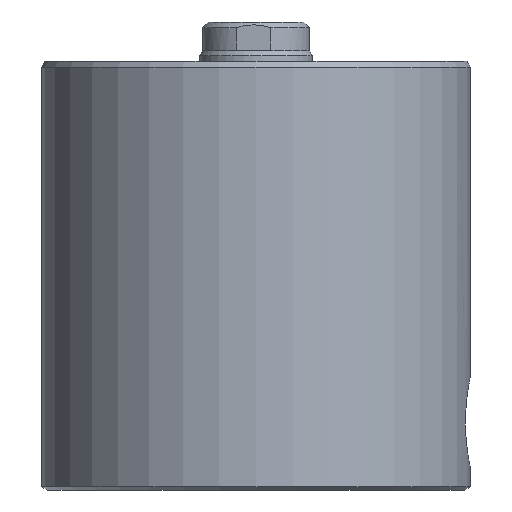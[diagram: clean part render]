
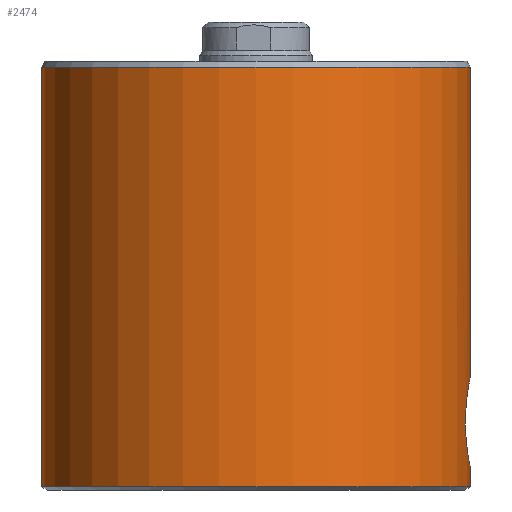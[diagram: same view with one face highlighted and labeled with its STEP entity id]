
A CAD part, front view. The second image highlights one B-rep face of the part: STEP entity #2474.
In plain terms, the highlighted cylindrical face has radius 38 mm (diameter 76 mm), a partial arc.
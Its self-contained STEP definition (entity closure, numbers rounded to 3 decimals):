
#9 = CARTESIAN_POINT ( 'NONE',  ( 37.295, -7.289, 8.692 ) ) ;
#30 = CARTESIAN_POINT ( 'NONE',  ( 37.79, -4.012, 5.059 ) ) ;
#31 = LINE ( 'NONE', #1203, #2185 ) ;
#65 = ORIENTED_EDGE ( 'NONE', *, *, #1409, .T. ) ;
#133 = CIRCLE ( 'NONE', #682, 38. ) ;
#236 = CARTESIAN_POINT ( 'NONE',  ( 37.713, -4.663, 5.495 ) ) ;
#256 = CARTESIAN_POINT ( 'NONE',  ( 37.913, -2.577, 4.422 ) ) ;
#278 = CARTESIAN_POINT ( 'NONE',  ( 37.604, -5.474, 6.161 ) ) ;
#293 = CARTESIAN_POINT ( 'NONE',  ( 37.388, -6.795, 7.77 ) ) ;
#294 = DIRECTION ( 'NONE',  ( 0., 0., -1. ) ) ;
#311 = CARTESIAN_POINT ( 'NONE',  ( 37.317, -7.176, 15.546 ) ) ;
#577 = EDGE_CURVE ( 'NONE', #2547, #1329, #3511, .T. ) ;
#580 = CARTESIAN_POINT ( 'NONE',  ( 38., 0., 4. ) ) ;
#591 = DIRECTION ( 'NONE',  ( 1., 0., 0. ) ) ;
#600 = CARTESIAN_POINT ( 'NONE',  ( 37.235, -7.591, 14.579 ) ) ;
#608 = EDGE_LOOP ( 'NONE', ( #745, #2962, #3556, #3316, #3281, #65 ) ) ;
#676 = CARTESIAN_POINT ( 'NONE',  ( 37.986, -1.049, 19.935 ) ) ;
#682 = AXIS2_PLACEMENT_3D ( 'NONE', #823, #294, #1702 ) ;
#745 = ORIENTED_EDGE ( 'NONE', *, *, #2618, .F. ) ;
#790 = VERTEX_POINT ( 'NONE', #3552 ) ;
#801 = DIRECTION ( 'NONE',  ( 0., 0., -1. ) ) ;
#817 = CARTESIAN_POINT ( 'NONE',  ( 0., 0., 0.577 ) ) ;
#822 = CARTESIAN_POINT ( 'NONE',  ( 37.989, -1.051, 4.052 ) ) ;
#823 = CARTESIAN_POINT ( 'NONE',  ( 0., 0., 75. ) ) ;
#839 = CARTESIAN_POINT ( 'NONE',  ( 38., -0.53, 4. ) ) ;
#886 = CARTESIAN_POINT ( 'NONE',  ( 37.16, -7.949, 10.953 ) ) ;
#925 = CARTESIAN_POINT ( 'NONE',  ( 37.688, -4.882, 18.359 ) ) ;
#1042 = CARTESIAN_POINT ( 'NONE',  ( 38., 0., 0.577 ) ) ;
#1069 = VECTOR ( 'NONE', #801, 1000. ) ;
#1122 = CARTESIAN_POINT ( 'NONE',  ( 37.549, -5.842, 17.472 ) ) ;
#1184 = CARTESIAN_POINT ( 'NONE',  ( 37.837, -3.553, 4.813 ) ) ;
#1202 = CARTESIAN_POINT ( 'NONE',  ( 37.363, -6.929, 16.008 ) ) ;
#1203 = CARTESIAN_POINT ( 'NONE',  ( -38., 0., 76. ) ) ;
#1221 = CARTESIAN_POINT ( 'NONE',  ( 38., -0.261, 20. ) ) ;
#1296 = CARTESIAN_POINT ( 'NONE',  ( 38., 0., 75. ) ) ;
#1323 = AXIS2_PLACEMENT_3D ( 'NONE', #2580, #3785, #1737 ) ;
#1329 = VERTEX_POINT ( 'NONE', #1042 ) ;
#1336 = VERTEX_POINT ( 'NONE', #2336 ) ;
#1386 = CARTESIAN_POINT ( 'NONE',  ( -38., 0., 0.577 ) ) ;
#1402 = CARTESIAN_POINT ( 'NONE',  ( 37.466, -6.35, 16.873 ) ) ;
#1409 = EDGE_CURVE ( 'NONE', #2685, #1336, #2546, .T. ) ;
#1449 = CARTESIAN_POINT ( 'NONE',  ( 37.521, -6.026, 6.713 ) ) ;
#1467 = CARTESIAN_POINT ( 'NONE',  ( 37.316, -7.177, 8.457 ) ) ;
#1485 = CARTESIAN_POINT ( 'NONE',  ( 37.16, -7.948, 13.052 ) ) ;
#1569 = CARTESIAN_POINT ( 'NONE',  ( 37.915, -2.582, 19.59 ) ) ;
#1578 = EDGE_CURVE ( 'NONE', #2685, #1329, #3687, .T. ) ;
#1696 = CARTESIAN_POINT ( 'NONE',  ( 38., 0., 76. ) ) ;
#1702 = DIRECTION ( 'NONE',  ( 1., 0., 0. ) ) ;
#1717 = CARTESIAN_POINT ( 'NONE',  ( 37.944, -2.074, 4.269 ) ) ;
#1737 = DIRECTION ( 'NONE',  ( -1., 0., 0. ) ) ;
#1760 = CARTESIAN_POINT ( 'NONE',  ( 37.957, -1.82, 4.205 ) ) ;
#1882 = CARTESIAN_POINT ( 'NONE',  ( 37.857, -3.307, 19.289 ) ) ;
#2012 = CARTESIAN_POINT ( 'NONE',  ( 37.237, -7.577, 9.419 ) ) ;
#2018 = EDGE_CURVE ( 'NONE', #2413, #790, #133, .T. ) ;
#2030 = CARTESIAN_POINT ( 'NONE',  ( 37.687, -4.875, 5.652 ) ) ;
#2072 = CARTESIAN_POINT ( 'NONE',  ( 37.148, -8., 12.52 ) ) ;
#2111 = CARTESIAN_POINT ( 'NONE',  ( 37.946, -2.083, 19.742 ) ) ;
#2185 = VECTOR ( 'NONE', #2473, 1000. ) ;
#2257 = LINE ( 'NONE', #1696, #1069 ) ;
#2265 = EDGE_CURVE ( 'NONE', #790, #2547, #31, .T. ) ;
#2272 = DIRECTION ( 'NONE',  ( 0., 0., 1. ) ) ;
#2275 = FACE_OUTER_BOUND ( 'NONE', #608, .T. ) ;
#2299 = CARTESIAN_POINT ( 'NONE',  ( 37.206, -7.729, 9.921 ) ) ;
#2336 = CARTESIAN_POINT ( 'NONE',  ( 38., 0., 20. ) ) ;
#2361 = CARTESIAN_POINT ( 'NONE',  ( 37.255, -7.489, 9.173 ) ) ;
#2382 = CARTESIAN_POINT ( 'NONE',  ( 37.439, -6.505, 16.664 ) ) ;
#2413 = VERTEX_POINT ( 'NONE', #1296 ) ;
#2473 = DIRECTION ( 'NONE',  ( 0., 0., -1. ) ) ;
#2474 = ADVANCED_FACE ( 'NONE', ( #2275 ), #3730, .T. ) ;
#2546 = B_SPLINE_CURVE_WITH_KNOTS ( 'NONE', 3,
 ( #580, #839, #822, #1760, #1717, #256, #2638, #1184, #30, #236, #2030, #2905, #278, #1449, #2925, #293, #2657, #1467, #9, #2361, #2012, #2299, #3522, #886, #2584, #2072, #1485, #3234, #600, #2942, #311, #1202, #3542, #2382, #1402, #3750, #1122, #3465, #925, #3622, #3603, #3559, #1882, #1569, #2111, #3275, #676, #3583, #1221, #3354 ),
 .UNSPECIFIED., .F., .F.,
 ( 4, 2, 2, 2, 2, 2, 2, 2, 2, 2, 2, 2, 2, 2, 2, 2, 2, 2, 2, 2, 2, 2, 2, 2, 4 ),
 ( 0., 0.002, 0.002, 0.003, 0.005, 0.005, 0.006, 0.008, 0.009, 0.009, 0.01, 0.011, 0.013, 0.014, 0.016, 0.016, 0.017, 0.018, 0.019, 0.02, 0.021, 0.022, 0.024, 0.024, 0.025 ),
 .UNSPECIFIED. ) ;
#2547 = VERTEX_POINT ( 'NONE', #1386 ) ;
#2580 = CARTESIAN_POINT ( 'NONE',  ( 0., 0., 76. ) ) ;
#2584 = CARTESIAN_POINT ( 'NONE',  ( 37.148, -8., 11.473 ) ) ;
#2618 = EDGE_CURVE ( 'NONE', #2413, #1336, #2257, .T. ) ;
#2635 = CARTESIAN_POINT ( 'NONE',  ( 38., 0., 4. ) ) ;
#2638 = CARTESIAN_POINT ( 'NONE',  ( 37.895, -2.827, 4.511 ) ) ;
#2657 = CARTESIAN_POINT ( 'NONE',  ( 37.363, -6.931, 7.996 ) ) ;
#2685 = VERTEX_POINT ( 'NONE', #2635 ) ;
#2905 = CARTESIAN_POINT ( 'NONE',  ( 37.632, -5.281, 5.985 ) ) ;
#2925 = CARTESIAN_POINT ( 'NONE',  ( 37.466, -6.357, 7.114 ) ) ;
#2942 = CARTESIAN_POINT ( 'NONE',  ( 37.294, -7.289, 15.307 ) ) ;
#2962 = ORIENTED_EDGE ( 'NONE', *, *, #2018, .T. ) ;
#3063 = CARTESIAN_POINT ( 'NONE',  ( 38., 0., 76. ) ) ;
#3145 = VECTOR ( 'NONE', #3369, 1000. ) ;
#3234 = CARTESIAN_POINT ( 'NONE',  ( 37.203, -7.743, 14.079 ) ) ;
#3275 = CARTESIAN_POINT ( 'NONE',  ( 37.978, -1.311, 19.896 ) ) ;
#3281 = ORIENTED_EDGE ( 'NONE', *, *, #1578, .F. ) ;
#3316 = ORIENTED_EDGE ( 'NONE', *, *, #577, .T. ) ;
#3339 = AXIS2_PLACEMENT_3D ( 'NONE', #817, #2272, #591 ) ;
#3354 = CARTESIAN_POINT ( 'NONE',  ( 38., 0., 20. ) ) ;
#3369 = DIRECTION ( 'NONE',  ( 0., 0., -1. ) ) ;
#3465 = CARTESIAN_POINT ( 'NONE',  ( 37.633, -5.285, 18.029 ) ) ;
#3511 = CIRCLE ( 'NONE', #3339, 38. ) ;
#3522 = CARTESIAN_POINT ( 'NONE',  ( 37.192, -7.794, 10.178 ) ) ;
#3542 = CARTESIAN_POINT ( 'NONE',  ( 37.388, -6.794, 16.231 ) ) ;
#3552 = CARTESIAN_POINT ( 'NONE',  ( -38., 0., 75. ) ) ;
#3556 = ORIENTED_EDGE ( 'NONE', *, *, #2265, .T. ) ;
#3559 = CARTESIAN_POINT ( 'NONE',  ( 37.835, -3.546, 19.176 ) ) ;
#3583 = CARTESIAN_POINT ( 'NONE',  ( 37.997, -0.523, 19.987 ) ) ;
#3603 = CARTESIAN_POINT ( 'NONE',  ( 37.789, -4.009, 18.928 ) ) ;
#3622 = CARTESIAN_POINT ( 'NONE',  ( 37.764, -4.233, 18.793 ) ) ;
#3687 = LINE ( 'NONE', #3063, #3145 ) ;
#3730 = CYLINDRICAL_SURFACE ( 'NONE', #1323, 38. ) ;
#3750 = CARTESIAN_POINT ( 'NONE',  ( 37.521, -6.019, 17.276 ) ) ;
#3785 = DIRECTION ( 'NONE',  ( 0., 0., -1. ) ) ;
